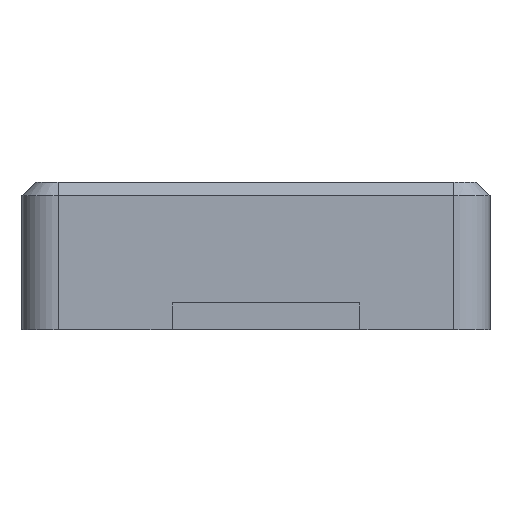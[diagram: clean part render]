
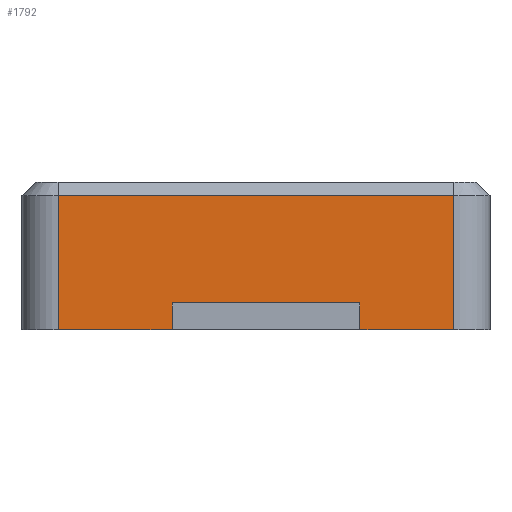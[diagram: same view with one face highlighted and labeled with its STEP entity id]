
A CAD part, left-side view. The second image highlights one B-rep face of the part: STEP entity #1792.
In plain terms, the highlighted planar face has unit normal (-1, 0, 0).
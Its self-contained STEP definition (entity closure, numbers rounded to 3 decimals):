
#935=CARTESIAN_POINT('Vertex',(-81.4,25.,-2.)) ;
#962=CARTESIAN_POINT('Line Origine',(-81.4,-4.5,-2.)) ;
#966=CARTESIAN_POINT('Vertex',(-81.4,-34.,-2.)) ;
#1722=CARTESIAN_POINT('Vertex',(-81.4,25.,-22.)) ;
#1725=CARTESIAN_POINT('Line Origine',(-81.4,25.,-11.)) ;
#1737=CARTESIAN_POINT('Axis2P3D Location',(-81.4,30.4,0.)) ;
#1742=CARTESIAN_POINT('Line Origine',(-81.4,16.5,-22.)) ;
#1746=CARTESIAN_POINT('Vertex',(-81.4,8.,-22.)) ;
#1749=CARTESIAN_POINT('Line Origine',(-81.4,8.,-20.)) ;
#1753=CARTESIAN_POINT('Vertex',(-81.4,8.,-18.)) ;
#1756=CARTESIAN_POINT('Line Origine',(-81.4,-6.,-18.)) ;
#1760=CARTESIAN_POINT('Vertex',(-81.4,-20.,-18.)) ;
#1763=CARTESIAN_POINT('Line Origine',(-81.4,-20.,-20.)) ;
#1767=CARTESIAN_POINT('Vertex',(-81.4,-20.,-22.)) ;
#1770=CARTESIAN_POINT('Line Origine',(-81.4,-27.,-22.)) ;
#1774=CARTESIAN_POINT('Vertex',(-81.4,-34.,-22.)) ;
#1777=CARTESIAN_POINT('Line Origine',(-81.4,-34.,-12.)) ;
#963=DIRECTION('Vector Direction',(0.,-1.,0.)) ;
#1726=DIRECTION('Vector Direction',(0.,0.,-1.)) ;
#1738=DIRECTION('Axis2P3D Direction',(1.,0.,0.)) ;
#1739=DIRECTION('Axis2P3D XDirection',(0.,-1.,0.)) ;
#1743=DIRECTION('Vector Direction',(0.,-1.,0.)) ;
#1750=DIRECTION('Vector Direction',(0.,0.,-1.)) ;
#1757=DIRECTION('Vector Direction',(0.,-1.,0.)) ;
#1764=DIRECTION('Vector Direction',(0.,0.,1.)) ;
#1771=DIRECTION('Vector Direction',(0.,-1.,0.)) ;
#1778=DIRECTION('Vector Direction',(0.,0.,-1.)) ;
#1740=AXIS2_PLACEMENT_3D('Plane Axis2P3D',#1737,#1738,#1739) ;
#1783=ORIENTED_EDGE('',*,*,#968,.F.) ;
#1784=ORIENTED_EDGE('',*,*,#1729,.T.) ;
#1785=ORIENTED_EDGE('',*,*,#1748,.F.) ;
#1786=ORIENTED_EDGE('',*,*,#1755,.F.) ;
#1787=ORIENTED_EDGE('',*,*,#1762,.F.) ;
#1788=ORIENTED_EDGE('',*,*,#1769,.F.) ;
#1789=ORIENTED_EDGE('',*,*,#1776,.F.) ;
#1790=ORIENTED_EDGE('',*,*,#1781,.F.) ;
#964=VECTOR('Line Direction',#963,1.) ;
#1727=VECTOR('Line Direction',#1726,1.) ;
#1744=VECTOR('Line Direction',#1743,1.) ;
#1751=VECTOR('Line Direction',#1750,1.) ;
#1758=VECTOR('Line Direction',#1757,1.) ;
#1765=VECTOR('Line Direction',#1764,1.) ;
#1772=VECTOR('Line Direction',#1771,1.) ;
#1779=VECTOR('Line Direction',#1778,1.) ;
#1792=ADVANCED_FACE('PartBody',(#1791),#1741,.F.) ;
#968=EDGE_CURVE('',#936,#967,#965,.T.) ;
#1729=EDGE_CURVE('',#936,#1723,#1728,.T.) ;
#1748=EDGE_CURVE('',#1747,#1723,#1745,.F.) ;
#1755=EDGE_CURVE('',#1754,#1747,#1752,.T.) ;
#1762=EDGE_CURVE('',#1761,#1754,#1759,.F.) ;
#1769=EDGE_CURVE('',#1768,#1761,#1766,.T.) ;
#1776=EDGE_CURVE('',#1775,#1768,#1773,.F.) ;
#1781=EDGE_CURVE('',#967,#1775,#1780,.T.) ;
#1782=EDGE_LOOP('',(#1783,#1784,#1785,#1786,#1787,#1788,#1789,#1790)) ;
#1791=FACE_OUTER_BOUND('',#1782,.T.) ;
#965=LINE('Line',#962,#964) ;
#1728=LINE('Line',#1725,#1727) ;
#1745=LINE('Line',#1742,#1744) ;
#1752=LINE('Line',#1749,#1751) ;
#1759=LINE('Line',#1756,#1758) ;
#1766=LINE('Line',#1763,#1765) ;
#1773=LINE('Line',#1770,#1772) ;
#1780=LINE('Line',#1777,#1779) ;
#1741=PLANE('Plane',#1740) ;
#936=VERTEX_POINT('',#935) ;
#967=VERTEX_POINT('',#966) ;
#1723=VERTEX_POINT('',#1722) ;
#1747=VERTEX_POINT('',#1746) ;
#1754=VERTEX_POINT('',#1753) ;
#1761=VERTEX_POINT('',#1760) ;
#1768=VERTEX_POINT('',#1767) ;
#1775=VERTEX_POINT('',#1774) ;
